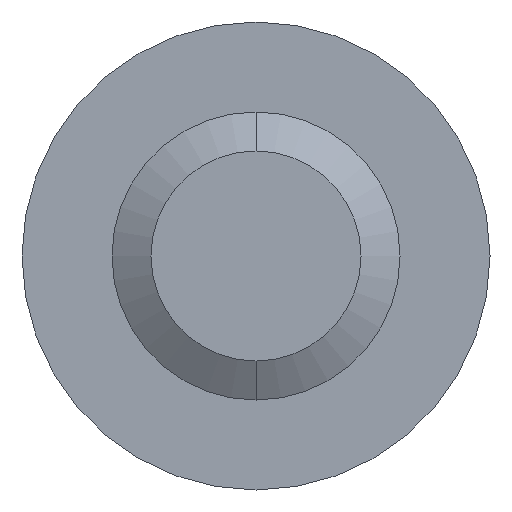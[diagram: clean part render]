
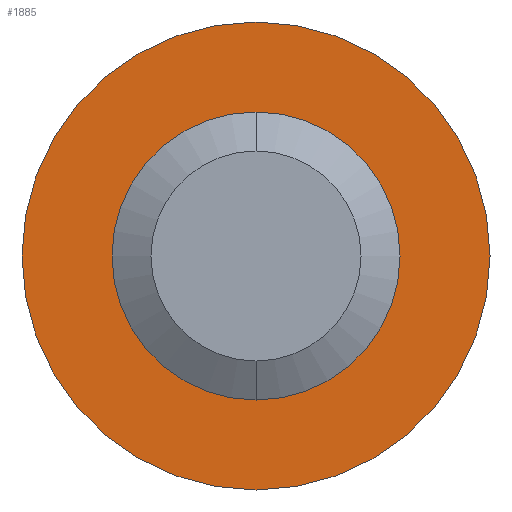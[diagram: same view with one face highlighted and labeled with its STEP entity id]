
A CAD part, front view. The second image highlights one B-rep face of the part: STEP entity #1885.
In plain terms, the highlighted planar face has unit normal (0, -1, 0).
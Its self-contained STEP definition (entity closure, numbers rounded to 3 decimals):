
#31 = PLANE ( 'NONE',  #165 ) ;
#64 = EDGE_LOOP ( 'NONE', ( #433, #1891 ) ) ;
#87 = EDGE_CURVE ( 'NONE', #1500, #2066, #2265, .T. ) ;
#162 = EDGE_CURVE ( 'NONE', #1755, #1828, #1565, .T. ) ;
#165 = AXIS2_PLACEMENT_3D ( 'NONE', #762, #961, #1314 ) ;
#233 = FACE_OUTER_BOUND ( 'NONE', #1997, .T. ) ;
#433 = ORIENTED_EDGE ( 'NONE', *, *, #965, .T. ) ;
#507 = CARTESIAN_POINT ( 'NONE',  ( 0., 20., 0. ) ) ;
#544 = DIRECTION ( 'NONE',  ( 0., 0., 1. ) ) ;
#715 = CIRCLE ( 'NONE', #1024, 4. ) ;
#762 = CARTESIAN_POINT ( 'NONE',  ( 0., 20., 0. ) ) ;
#793 = ORIENTED_EDGE ( 'NONE', *, *, #162, .F. ) ;
#904 = DIRECTION ( 'NONE',  ( 0., 1., 0. ) ) ;
#941 = FACE_BOUND ( 'NONE', #64, .T. ) ;
#961 = DIRECTION ( 'NONE',  ( 0., 1., 0. ) ) ;
#965 = EDGE_CURVE ( 'NONE', #2066, #1500, #715, .T. ) ;
#1024 = AXIS2_PLACEMENT_3D ( 'NONE', #1479, #904, #1642 ) ;
#1056 = AXIS2_PLACEMENT_3D ( 'NONE', #2354, #1438, #1582 ) ;
#1060 = DIRECTION ( 'NONE',  ( 0., 1., 0. ) ) ;
#1229 = ORIENTED_EDGE ( 'NONE', *, *, #1327, .F. ) ;
#1256 = DIRECTION ( 'NONE',  ( 0., 0., 1. ) ) ;
#1314 = DIRECTION ( 'NONE',  ( 0., 0., 1. ) ) ;
#1327 = EDGE_CURVE ( 'NONE', #1828, #1755, #1621, .T. ) ;
#1348 = CARTESIAN_POINT ( 'NONE',  ( 0., 20., 4. ) ) ;
#1396 = CARTESIAN_POINT ( 'NONE',  ( 0., 20., -4. ) ) ;
#1438 = DIRECTION ( 'NONE',  ( 0., 1., 0. ) ) ;
#1479 = CARTESIAN_POINT ( 'NONE',  ( 0., 20., 0. ) ) ;
#1500 = VERTEX_POINT ( 'NONE', #1348 ) ;
#1565 = CIRCLE ( 'NONE', #1949, 6.5 ) ;
#1582 = DIRECTION ( 'NONE',  ( 0., 0., 1. ) ) ;
#1621 = CIRCLE ( 'NONE', #1936, 6.5 ) ;
#1642 = DIRECTION ( 'NONE',  ( 0., 0., 1. ) ) ;
#1670 = CARTESIAN_POINT ( 'NONE',  ( 0., 20., 0. ) ) ;
#1755 = VERTEX_POINT ( 'NONE', #2352 ) ;
#1828 = VERTEX_POINT ( 'NONE', #2014 ) ;
#1885 = ADVANCED_FACE ( 'NONE', ( #233, #941 ), #31, .F. ) ;
#1891 = ORIENTED_EDGE ( 'NONE', *, *, #87, .T. ) ;
#1936 = AXIS2_PLACEMENT_3D ( 'NONE', #1670, #2044, #544 ) ;
#1949 = AXIS2_PLACEMENT_3D ( 'NONE', #507, #1060, #1256 ) ;
#1997 = EDGE_LOOP ( 'NONE', ( #1229, #793 ) ) ;
#2014 = CARTESIAN_POINT ( 'NONE',  ( 0., 20., -6.5 ) ) ;
#2044 = DIRECTION ( 'NONE',  ( 0., 1., 0. ) ) ;
#2066 = VERTEX_POINT ( 'NONE', #1396 ) ;
#2265 = CIRCLE ( 'NONE', #1056, 4. ) ;
#2352 = CARTESIAN_POINT ( 'NONE',  ( 0., 20., 6.5 ) ) ;
#2354 = CARTESIAN_POINT ( 'NONE',  ( 0., 20., 0. ) ) ;
